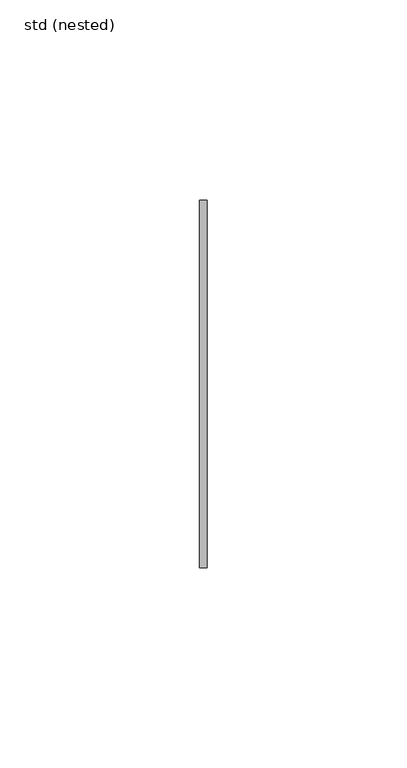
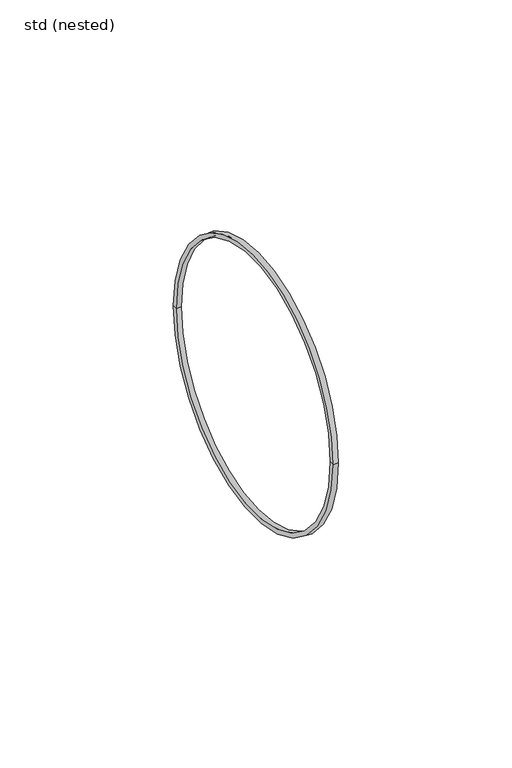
"""IFC4 building model written with IfcOpenShell, lengths in millimetres: pipe fitting geometry, ZZZ_do not use_PIF_ST_UN_GM-X seal non transitional_ACO : std (nested)."""

from ifc_helpers import new_model, si_unit, frame, origin, place, context, project, spatial, polyline, circle_curve, source, transform, mapped, element, save
from ifc_brep_helpers import plane_surface, cylinder_surface, revolved_surface, advanced_brep


def std_nested_0415c611(model_context):
    return source(origin(), model_context, "Body", "AdvancedBrep", [
        advanced_brep(
        [(0.0, -46.0, 0.0), (0.0, 46.0, 0.0), (1.8, 46.0, 0.0), (1.8, -46.0, 0.0), (0.0, -44.5, 0.0), (0.0, 44.5, 0.0), (1.8, -44.5, 0.0), (1.8, 44.5, 0.0)],
        [
            (0, 1, circle_curve(frame((0.0, 0.0, 0.0), z_axis=(1.0, 0.0, 0.0), x_axis=(0.0, 1.0, 0.0)), 46.0)),
            (1, 2),
            (2, 3, circle_curve(frame((1.8, 0.0, 0.0), z_axis=(-1.0, 0.0, 0.0), x_axis=(0.0, 1.0, 0.0)), 46.0)),
            (3, 0),
            (1, 0, circle_curve(frame((0.0, 0.0, 0.0), z_axis=(1.0, 0.0, 0.0), x_axis=(0.0, 1.0, 0.0)), 46.0)),
            (3, 2, circle_curve(frame((1.8, 0.0, 0.0), z_axis=(-1.0, 0.0, 0.0), x_axis=(0.0, 1.0, 0.0)), 46.0)),
            (4, 5, circle_curve(frame((0.0, 0.0, 0.0), z_axis=(1.0, 0.0, 0.0), x_axis=(0.0, 1.0, 0.0)), 44.5)),
            (5, 1),
            (0, 4),
            (5, 4, circle_curve(frame((0.0, 0.0, 0.0), z_axis=(1.0, 0.0, 0.0), x_axis=(0.0, 1.0, 0.0)), 44.5)),
            (6, 7, circle_curve(frame((1.8, 0.0, 0.0), z_axis=(1.0, 0.0, 0.0), x_axis=(0.0, 1.0, 0.0)), 44.5)),
            (7, 5),
            (4, 6),
            (7, 6, circle_curve(frame((1.8, 0.0, 0.0), z_axis=(1.0, 0.0, 0.0), x_axis=(0.0, 1.0, 0.0)), 44.5)),
            (2, 7),
            (6, 3),
        ],
        [
            cylinder_surface(frame((-0.8180655, 0.0, 0.0), z_axis=(-1.0, 0.0, 0.0), x_axis=(0.0, 1.0, 0.0)), 46.0),
            plane_surface(frame((0.0, 0.0, 0.0), z_axis=(-1.0, 0.0, 0.0), x_axis=(0.0, 1.0, 0.0))),
            revolved_surface(polyline([(0.0, 44.5, 0.0), (1.8000000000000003, 44.5, 0.0)]), (-0.8180655, 0.0, 0.0), (-1.0, 0.0, 0.0)),
            plane_surface(frame((1.8, 0.0, 0.0), z_axis=(1.0, 0.0, 0.0), x_axis=(0.0, 1.0, 0.0))),
        ],
        [
            (0, [[1, 2, 3, 4]]),
            (0, [[5, -4, 6, -2]]),
            (1, [[7, 8, -1, 9]]),
            (1, [[10, -9, -5, -8]]),
            (2, [[11, 12, -7, 13]]),
            (2, [[14, -13, -10, -12]]),
            (3, [[-3, 15, -11, 16]]),
            (3, [[-6, -16, -14, -15]]),
        ],
    ),
    ])


if __name__ == "__main__":
    model = new_model("IFC4")
    model_context = context("Model", 3, world=origin())
    ifc_project = project(units=[si_unit("LENGTHUNIT", "METRE", prefix="MILLI")], contexts=[model_context])
    site = spatial("IfcSite", under=ifc_project)
    building = spatial("IfcBuilding", under=site)
    placement = place(None, origin())
    std_nested_shape = std_nested_0415c611(model_context)
    element("IfcPipeFitting", 1, ObjectType="ZZZ_do not use_PIF_ST_UN_GM-X seal non transitional_ACO : std (nested)", at=placement, inside=building, context=model_context, shape_type="MappedRepresentation", body=[
        mapped(std_nested_shape, transform((0.0, 0.0, 0.0), x_axis=(1.0, 0.0, 0.0), y_axis=(0.0, 1.0, 0.0), z_axis=(0.0, 0.0, 1.0))),
    ])
    save(model, "model.ifc")
